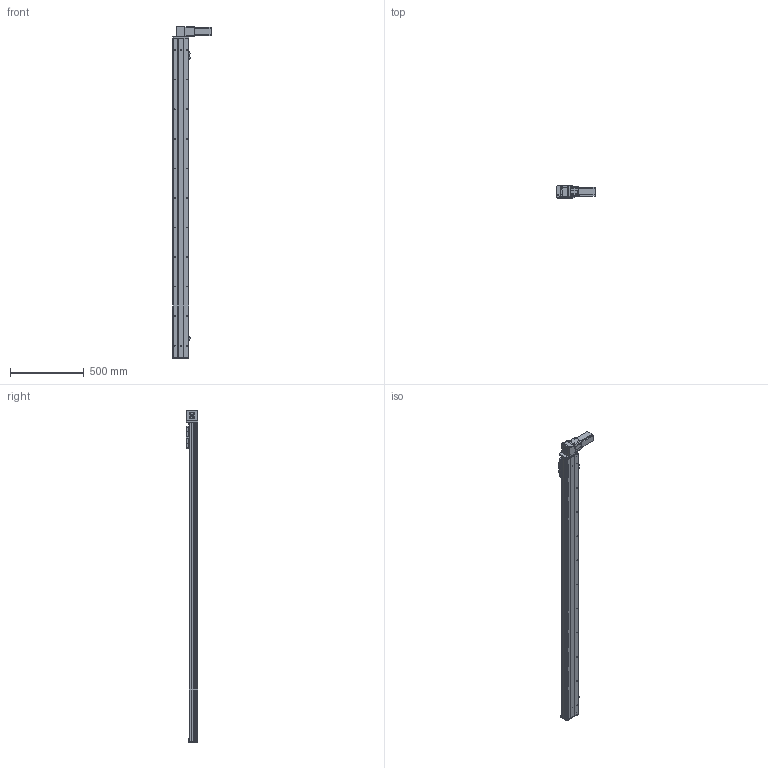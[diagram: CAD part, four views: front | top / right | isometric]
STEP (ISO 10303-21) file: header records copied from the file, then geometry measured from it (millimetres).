
FILE_DESCRIPTION (( 'STEP AP203' ), '1' );
FILE_NAME ('Y10CB-D90-S1900-BD-P400W.STEP', '2020-02-17T02:52:18', ( '微软用户' ), ( '微软中国' ), 'SwSTEP 2.0', 'SolidWorks 2017', '' );
FILE_SCHEMA (( 'CONFIG_CONTROL_DESIGN' ));
Length unit declared in the file: millimetre
Products named in the file (16): Y10CB-D90-S1900-BD-P400W; Y10CB- 掛极耜裔啣-毀---; Y10C---詩湍揤啣; 0CB-雄赽釱---; 10CB9-掛极; 0Cb-俋欶---; 10CB-耜裔; Y10B-々湍喘謫眊楊擘啣--; Y135C-陔俋离換覜結え-; san松下电机400不带刹车----; Y100-135俋离換覜ん--; 0B-源倛裔啣; Y10B--々湍喘謫眊--666; 0B-埴倛裔啣; 0B-薊粣ん眊; 10CB-詩湍-
Assembly tree (19 placements, depth 2):
  Y10CB-D90-S1900-BD-P400W
    0CB-雄赽釱---
    0Cb-俋欶---
    Y10B-々湍喘謫眊楊擘啣--
    san松下电机400不带刹车----
    0B-源倛裔啣
    0B-埴倛裔啣
    10CB-詩湍-
    Y10CB- 掛极耜裔啣-毀---  x2
    Y10C---詩湍揤啣  x2
    10CB9-掛极
    10CB-耜裔
    Y135C-陔俋离換覜結え-
    Y100-135俋离換覜ん--  x3
    Y10B--々湍喘謫眊--666
    0B-薊粣ん眊
Bounding box: 258 x 80.5 x 2246 mm (x, y, z)
Volume: 4706884.9 mm3; surface area: 2160061.6 mm2
Topology: 19 solids, 19 shells, 948 faces, 2542 edges, 1652 vertices
Faces by surface type: cylinder 480, plane 444, cone 24
Entity records: 29569 total; most frequent: CARTESIAN_POINT 5496, DIRECTION 4729, ORIENTED_EDGE 4554, EDGE_CURVE 2277, AXIS2_PLACEMENT_3D 1695, VERTEX_POINT 1478, VECTOR 1339, LINE 1339
